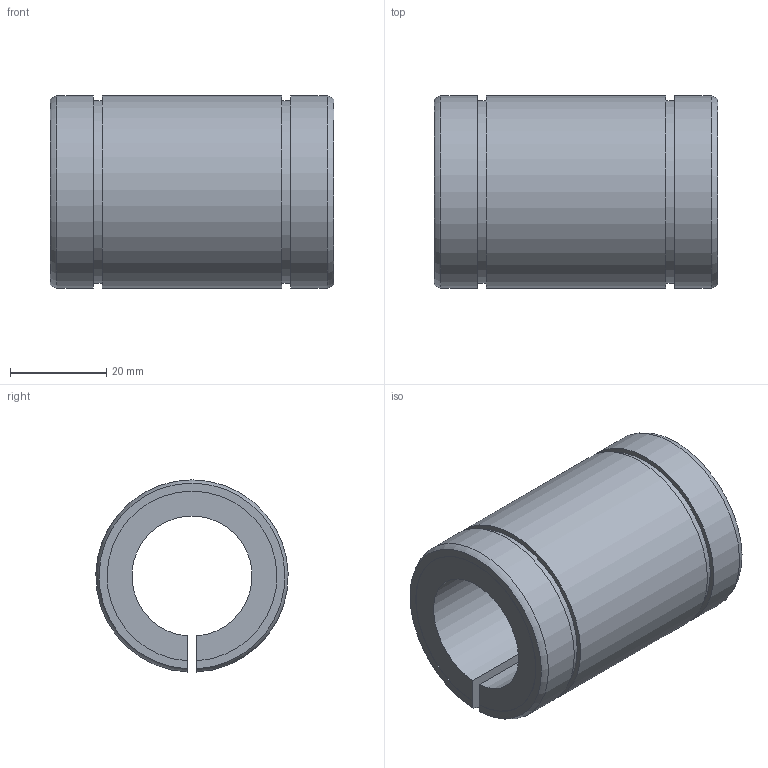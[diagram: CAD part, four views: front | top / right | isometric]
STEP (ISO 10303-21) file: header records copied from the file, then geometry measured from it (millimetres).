
FILE_DESCRIPTION((''),'2;1');
FILE_NAME('D:\製品 (図面)\カタログ用3D\リニアベアリング関連\STEP形式\L-ADJ\L25B-ADJ.stp','2010-06-02T17:37:18',('Tsuchiya'),(''),'Autodesk Inventor 10','Autodesk Inventor 10','');
FILE_SCHEMA(('AUTOMOTIVE_DESIGN { 1 0 10303 214 1 1 1 1 }'));
Length unit declared in the file: millimetre
Products named in the file (1): L25B-ADJ
Bounding box: 59 x 39.99 x 39.98 mm (x, y, z)
Volume: 43655.9 mm3; surface area: 14525.1 mm2
Topology: 1 solids, 1 shells, 20 faces, 54 edges, 36 vertices
Faces by surface type: plane 10, cylinder 8, torus 2
Entity records: 693 total; most frequent: CARTESIAN_POINT 153, DIRECTION 110, ORIENTED_EDGE 108, EDGE_CURVE 54, AXIS2_PLACEMENT_3D 39, VERTEX_POINT 36, VECTOR 32, LINE 32
